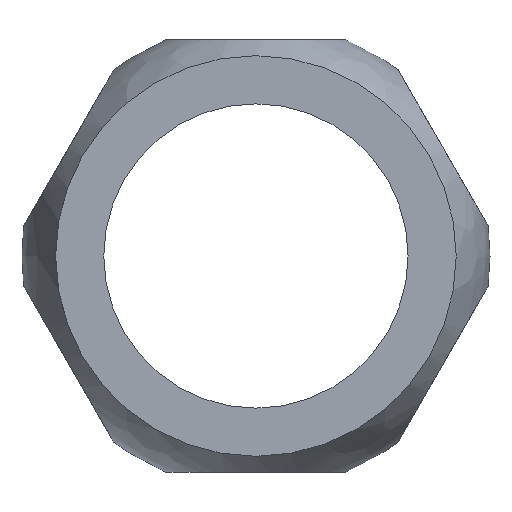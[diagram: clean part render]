
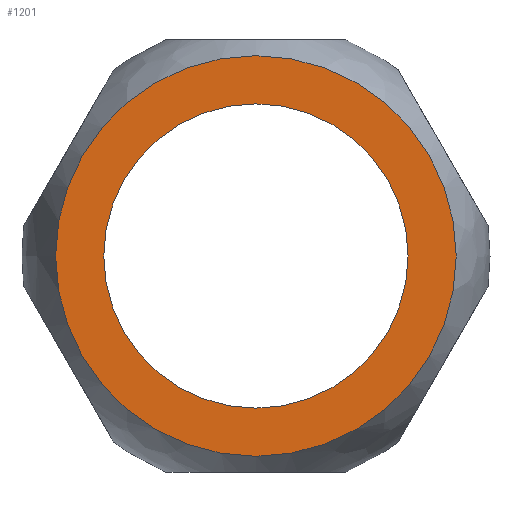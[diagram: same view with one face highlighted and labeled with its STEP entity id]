
A CAD part, left-side view. The second image highlights one B-rep face of the part: STEP entity #1201.
In plain terms, the highlighted planar face has unit normal (-1, 0, 0).
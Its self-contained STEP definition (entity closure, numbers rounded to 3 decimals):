
#1098=CARTESIAN_POINT('',(0.,11.124,0.0));
#1099=VERTEX_POINT('',#1098);
#1100=CARTESIAN_POINT('',(0.,0.0,0.0));
#1101=DIRECTION('',(1.0,0.0,0.0));
#1102=DIRECTION('',(0.0,1.0,0.0));
#1103=AXIS2_PLACEMENT_3D('',#1100,#1101,#1102);
#1104=CIRCLE('',#1103,11.124);
#1105=EDGE_CURVE('',#1099,#1099,#1104,.T.);
#1175=CARTESIAN_POINT('',(0.0,8.45,0.0));
#1176=VERTEX_POINT('',#1175);
#1177=CARTESIAN_POINT('',(0.0,0.0,0.0));
#1178=DIRECTION('',(1.0,0.0,0.0));
#1179=DIRECTION('',(0.0,1.0,0.0));
#1180=AXIS2_PLACEMENT_3D('',#1177,#1178,#1179);
#1181=CIRCLE('',#1180,8.45);
#1182=EDGE_CURVE('',#1176,#1176,#1181,.T.);
#1190=CARTESIAN_POINT('',(0.,9.787,0.0));
#1191=DIRECTION('',(-1.0,0.0,0.0));
#1192=DIRECTION('',(0.0,0.0,1.0));
#1193=AXIS2_PLACEMENT_3D('',#1190,#1191,#1192);
#1194=PLANE('',#1193);
#1195=ORIENTED_EDGE('',*,*,#1105,.F.);
#1196=EDGE_LOOP('',(#1195));
#1197=FACE_OUTER_BOUND('',#1196,.T.);
#1198=ORIENTED_EDGE('',*,*,#1182,.T.);
#1199=EDGE_LOOP('',(#1198));
#1200=FACE_BOUND('',#1199,.T.);
#1201=ADVANCED_FACE('',(#1197,#1200),#1194,.T.);
